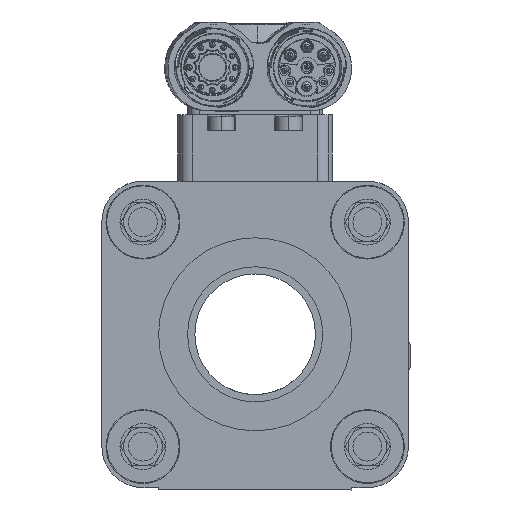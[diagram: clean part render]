
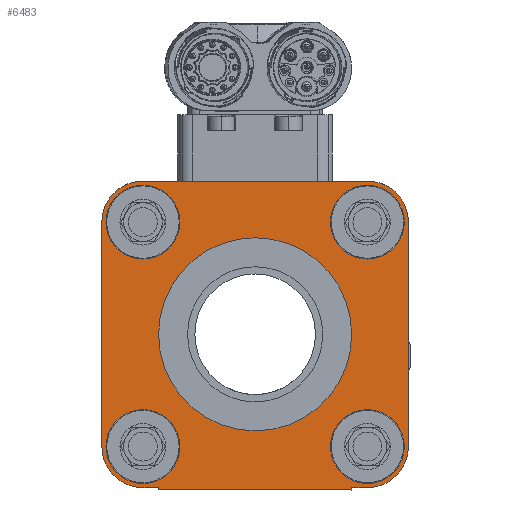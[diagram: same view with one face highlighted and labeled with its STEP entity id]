
A CAD part, left-side view. The second image highlights one B-rep face of the part: STEP entity #6483.
In plain terms, the highlighted planar face has unit normal (-1, 0, 0) as drawn and (0, 0, 1) by its records, which use the part's own axes.
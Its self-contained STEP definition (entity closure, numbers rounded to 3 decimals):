
#6483=ADVANCED_FACE('10:20',(#12906,#12907,#12908,#12909,#12910,#12911),#12912,.T.);
#12906=FACE_BOUND('',#40427,.T.);
#12907=FACE_BOUND('',#40428,.T.);
#12908=FACE_BOUND('',#40429,.T.);
#12909=FACE_BOUND('',#40430,.T.);
#12910=FACE_BOUND('',#40431,.T.);
#12911=FACE_OUTER_BOUND('',#40432,.T.);
#12912=PLANE('',#40433);
#40427=EDGE_LOOP('',(#59205,#59206));
#40428=EDGE_LOOP('',(#59207,#59208));
#40429=EDGE_LOOP('',(#59209,#59210));
#40430=EDGE_LOOP('',(#59211,#59212));
#40431=EDGE_LOOP('',(#59213,#59214));
#40432=EDGE_LOOP('',(#59215,#59216,#59217,#59218,#59219,#59220,#59221,#59222,#59223,#59224,#59225,#59226,#59227,#59228,#59229,#59230));
#40433=AXIS2_PLACEMENT_3D('',#59231,#59232,#59233);
#59205=ORIENTED_EDGE('',*,*,#71513,.F.);
#59206=ORIENTED_EDGE('',*,*,#65842,.F.);
#59207=ORIENTED_EDGE('',*,*,#69254,.F.);
#59208=ORIENTED_EDGE('',*,*,#62888,.F.);
#59209=ORIENTED_EDGE('',*,*,#71480,.F.);
#59210=ORIENTED_EDGE('',*,*,#70613,.F.);
#59211=ORIENTED_EDGE('',*,*,#64526,.F.);
#59212=ORIENTED_EDGE('',*,*,#64649,.F.);
#59213=ORIENTED_EDGE('',*,*,#69666,.F.);
#59214=ORIENTED_EDGE('',*,*,#65515,.F.);
#59215=ORIENTED_EDGE('',*,*,#64383,.F.);
#59216=ORIENTED_EDGE('',*,*,#69345,.F.);
#59217=ORIENTED_EDGE('',*,*,#68311,.F.);
#59218=ORIENTED_EDGE('',*,*,#70839,.F.);
#59219=ORIENTED_EDGE('',*,*,#65808,.F.);
#59220=ORIENTED_EDGE('',*,*,#66340,.F.);
#59221=ORIENTED_EDGE('',*,*,#67340,.F.);
#59222=ORIENTED_EDGE('',*,*,#63521,.F.);
#59223=ORIENTED_EDGE('',*,*,#63558,.F.);
#59224=ORIENTED_EDGE('',*,*,#67400,.F.);
#59225=ORIENTED_EDGE('',*,*,#62273,.F.);
#59226=ORIENTED_EDGE('',*,*,#67786,.F.);
#59227=ORIENTED_EDGE('',*,*,#71514,.F.);
#59228=ORIENTED_EDGE('',*,*,#66695,.F.);
#59229=ORIENTED_EDGE('',*,*,#62635,.F.);
#59230=ORIENTED_EDGE('',*,*,#69720,.F.);
#59231=CARTESIAN_POINT('',(0.,0.,34.0));
#59232=DIRECTION('',(0.0,0.0,1.0));
#59233=DIRECTION('',(1.0,0.0,0.0));
#62273=EDGE_CURVE('',#75538,#75540,#75541,.F.);
#62635=EDGE_CURVE('',#76199,#76194,#76201,.F.);
#62888=EDGE_CURVE('',#76659,#76661,#76662,.F.);
#63521=EDGE_CURVE('',#77816,#77819,#77820,.F.);
#63558=EDGE_CURVE('',#77883,#77816,#77885,.F.);
#64383=EDGE_CURVE('',#79361,#79357,#79363,.F.);
#64526=EDGE_CURVE('',#79621,#79617,#79623,.F.);
#64649=EDGE_CURVE('',#79617,#79621,#79840,.F.);
#65515=EDGE_CURVE('',#81417,#81419,#81420,.F.);
#65808=EDGE_CURVE('',#81948,#81944,#81950,.F.);
#65842=EDGE_CURVE('',#82010,#82012,#82013,.F.);
#66340=EDGE_CURVE('',#82892,#81948,#82894,.F.);
#66695=EDGE_CURVE('',#76194,#83526,#83527,.F.);
#67340=EDGE_CURVE('',#77819,#82892,#84666,.F.);
#67400=EDGE_CURVE('',#75540,#77883,#84772,.F.);
#67786=EDGE_CURVE('',#85446,#75538,#85448,.F.);
#68311=EDGE_CURVE('',#86383,#86385,#86386,.F.);
#69254=EDGE_CURVE('',#76661,#76659,#88118,.F.);
#69345=EDGE_CURVE('',#86385,#79361,#88277,.F.);
#69666=EDGE_CURVE('',#81419,#81417,#88862,.F.);
#69720=EDGE_CURVE('',#79357,#76199,#88953,.F.);
#70613=EDGE_CURVE('',#90552,#90554,#90555,.F.);
#70839=EDGE_CURVE('',#81944,#86383,#90955,.F.);
#71480=EDGE_CURVE('',#90554,#90552,#92089,.F.);
#71513=EDGE_CURVE('',#82012,#82010,#92147,.F.);
#71514=EDGE_CURVE('',#83526,#85446,#92148,.F.);
#75538=VERTEX_POINT('',#100270);
#75540=VERTEX_POINT('',#100273);
#75541=LINE('',#100274,#100275);
#76194=VERTEX_POINT('',#101505);
#76199=VERTEX_POINT('',#101512);
#76201=LINE('',#101515,#101516);
#76659=VERTEX_POINT('',#102366);
#76661=VERTEX_POINT('',#102369);
#76662=CIRCLE('',#102370,7.65);
#77816=VERTEX_POINT('',#104553);
#77819=VERTEX_POINT('',#104557);
#77820=LINE('',#104558,#104559);
#77883=VERTEX_POINT('',#104640);
#77885=CIRCLE('',#104643,8.5);
#79357=VERTEX_POINT('',#107894);
#79361=VERTEX_POINT('',#107899);
#79363=CIRCLE('',#107902,8.5);
#79617=VERTEX_POINT('',#108409);
#79621=VERTEX_POINT('',#108414);
#79623=CIRCLE('',#108417,7.65);
#79840=CIRCLE('',#108873,7.65);
#81417=VERTEX_POINT('',#111706);
#81419=VERTEX_POINT('',#111709);
#81420=CIRCLE('',#111710,7.65);
#81944=VERTEX_POINT('',#112613);
#81948=VERTEX_POINT('',#112619);
#81950=LINE('',#112622,#112623);
#82010=VERTEX_POINT('',#112689);
#82012=VERTEX_POINT('',#112692);
#82013=CIRCLE('',#112693,20.0);
#82892=VERTEX_POINT('',#114189);
#82894=CIRCLE('',#114192,8.5);
#83526=VERTEX_POINT('',#115390);
#83527=LINE('',#115391,#115392);
#84666=CIRCLE('',#117698,8.5);
#84772=CIRCLE('',#118157,8.5);
#85446=VERTEX_POINT('',#119453);
#85448=LINE('',#119456,#119457);
#86383=VERTEX_POINT('',#121533);
#86385=VERTEX_POINT('',#121536);
#86386=CIRCLE('',#121537,8.5);
#88118=CIRCLE('',#124791,7.65);
#88277=LINE('',#125100,#125101);
#88862=CIRCLE('',#126039,7.65);
#88953=CIRCLE('',#126242,8.5);
#90552=VERTEX_POINT('',#129861);
#90554=VERTEX_POINT('',#129864);
#90555=CIRCLE('',#129865,7.65);
#90955=CIRCLE('',#130533,8.5);
#92089=CIRCLE('',#132726,7.65);
#92147=CIRCLE('',#132818,20.0);
#92148=LINE('',#132819,#132820);
#100270=CARTESIAN_POINT('',(-4.191,-45.136,34.0));
#100273=CARTESIAN_POINT('',(-7.441,-45.136,34.0));
#100274=CARTESIAN_POINT('',(7.904,-45.136,34.0));
#100275=VECTOR('',#138043,1.0);
#101505=CARTESIAN_POINT('',(35.809,-45.136,34.0));
#101512=CARTESIAN_POINT('',(39.059,-45.136,34.0));
#101515=CARTESIAN_POINT('',(7.904,-45.136,34.0));
#101516=VECTOR('',#138538,1.0);
#102366=CARTESIAN_POINT('',(46.709,-36.636,34.0));
#102369=CARTESIAN_POINT('',(31.409,-36.636,34.0));
#102370=AXIS2_PLACEMENT_3D('',#138868,#138869,#138870);
#104553=CARTESIAN_POINT('',(-15.941,-36.636,34.0));
#104557=CARTESIAN_POINT('',(-15.941,9.864,34.0));
#104558=CARTESIAN_POINT('',(-15.941,-6.693,34.0));
#104559=VECTOR('',#139773,1.0);
#104640=CARTESIAN_POINT('',(-13.451,-42.647,34.0));
#104643=AXIS2_PLACEMENT_3D('',#139826,#139827,#139828);
#107894=CARTESIAN_POINT('',(45.069,-42.647,34.0));
#107899=CARTESIAN_POINT('',(47.559,-36.636,34.0));
#107902=AXIS2_PLACEMENT_3D('',#140879,#140880,#140881);
#108409=CARTESIAN_POINT('',(46.709,9.864,34.0));
#108414=CARTESIAN_POINT('',(31.409,9.864,34.0));
#108417=AXIS2_PLACEMENT_3D('',#141066,#141067,#141068);
#108873=AXIS2_PLACEMENT_3D('',#141206,#141207,#141208);
#111706=CARTESIAN_POINT('',(0.209,9.864,34.0));
#111709=CARTESIAN_POINT('',(-15.091,9.864,34.0));
#111710=AXIS2_PLACEMENT_3D('',#142471,#142472,#142473);
#112613=CARTESIAN_POINT('',(39.059,18.364,34.0));
#112619=CARTESIAN_POINT('',(-7.441,18.364,34.0));
#112622=CARTESIAN_POINT('',(7.904,18.364,34.0));
#112623=VECTOR('',#142881,1.0);
#112689=CARTESIAN_POINT('',(35.809,-13.386,34.0));
#112692=CARTESIAN_POINT('',(-4.191,-13.386,34.0));
#112693=AXIS2_PLACEMENT_3D('',#142949,#142950,#142951);
#114189=CARTESIAN_POINT('',(-13.451,15.874,34.0));
#114192=AXIS2_PLACEMENT_3D('',#143626,#143627,#143628);
#115390=CARTESIAN_POINT('',(35.809,-45.636,34.0));
#115391=CARTESIAN_POINT('',(35.809,-22.693,34.0));
#115392=VECTOR('',#144095,1.0);
#117698=AXIS2_PLACEMENT_3D('',#144867,#144868,#144869);
#118157=AXIS2_PLACEMENT_3D('',#144927,#144928,#144929);
#119453=CARTESIAN_POINT('',(-4.191,-45.636,34.0));
#119456=CARTESIAN_POINT('',(-4.191,-22.693,34.0));
#119457=VECTOR('',#145437,1.0);
#121533=CARTESIAN_POINT('',(45.069,15.874,34.0));
#121536=CARTESIAN_POINT('',(47.559,9.864,34.0));
#121537=AXIS2_PLACEMENT_3D('',#146037,#146038,#146039);
#124791=AXIS2_PLACEMENT_3D('',#147285,#147286,#147287);
#125100=CARTESIAN_POINT('',(47.559,-6.693,34.0));
#125101=VECTOR('',#147383,1.0);
#126039=AXIS2_PLACEMENT_3D('',#147909,#147910,#147911);
#126242=AXIS2_PLACEMENT_3D('',#147959,#147960,#147961);
#129861=CARTESIAN_POINT('',(0.209,-36.636,34.0));
#129864=CARTESIAN_POINT('',(-15.091,-36.636,34.0));
#129865=AXIS2_PLACEMENT_3D('',#148971,#148972,#148973);
#130533=AXIS2_PLACEMENT_3D('',#149301,#149302,#149303);
#132726=AXIS2_PLACEMENT_3D('',#150073,#150074,#150075);
#132818=AXIS2_PLACEMENT_3D('',#150116,#150117,#150118);
#132819=CARTESIAN_POINT('',(7.904,-45.636,34.0));
#132820=VECTOR('',#150119,1.0);
#138043=DIRECTION('',(1.0,0.0,-0.0));
#138538=DIRECTION('',(1.0,0.0,-0.0));
#138868=CARTESIAN_POINT('',(39.059,-36.636,34.0));
#138869=DIRECTION('',(0.0,0.0,-1.0));
#138870=DIRECTION('',(1.0,0.0,0.0));
#139773=DIRECTION('',(0.0,-1.0,0.0));
#139826=CARTESIAN_POINT('',(-7.441,-36.636,34.0));
#139827=DIRECTION('',(0.0,0.0,1.0));
#139828=DIRECTION('',(-0.707,-0.707,0.0));
#140879=CARTESIAN_POINT('',(39.059,-36.636,34.0));
#140880=DIRECTION('',(0.0,0.0,1.0));
#140881=DIRECTION('',(0.707,-0.707,0.0));
#141066=CARTESIAN_POINT('',(39.059,9.864,34.0));
#141067=DIRECTION('',(0.0,0.0,-1.0));
#141068=DIRECTION('',(1.0,0.0,0.0));
#141206=CARTESIAN_POINT('',(39.059,9.864,34.0));
#141207=DIRECTION('',(0.0,0.0,-1.0));
#141208=DIRECTION('',(1.0,0.0,0.0));
#142471=CARTESIAN_POINT('',(-7.441,9.864,34.0));
#142472=DIRECTION('',(0.0,0.0,-1.0));
#142473=DIRECTION('',(1.0,0.0,0.0));
#142881=DIRECTION('',(-1.0,0.0,0.0));
#142949=CARTESIAN_POINT('',(15.809,-13.386,34.0));
#142950=DIRECTION('',(0.0,0.0,-1.0));
#142951=DIRECTION('',(1.0,0.0,0.0));
#143626=CARTESIAN_POINT('',(-7.441,9.864,34.0));
#143627=DIRECTION('',(0.0,0.0,1.0));
#143628=DIRECTION('',(-0.707,0.707,0.0));
#144095=DIRECTION('',(-0.0,1.0,0.0));
#144867=CARTESIAN_POINT('',(-7.441,9.864,34.0));
#144868=DIRECTION('',(0.0,0.0,1.0));
#144869=DIRECTION('',(-0.707,0.707,0.0));
#144927=CARTESIAN_POINT('',(-7.441,-36.636,34.0));
#144928=DIRECTION('',(0.0,0.0,1.0));
#144929=DIRECTION('',(-0.707,-0.707,0.0));
#145437=DIRECTION('',(0.0,-1.0,0.0));
#146037=CARTESIAN_POINT('',(39.059,9.864,34.0));
#146038=DIRECTION('',(0.0,-0.0,1.0));
#146039=DIRECTION('',(0.707,0.707,0.0));
#147285=CARTESIAN_POINT('',(39.059,-36.636,34.0));
#147286=DIRECTION('',(0.0,0.0,-1.0));
#147287=DIRECTION('',(1.0,0.0,0.0));
#147383=DIRECTION('',(-0.0,1.0,0.0));
#147909=CARTESIAN_POINT('',(-7.441,9.864,34.0));
#147910=DIRECTION('',(0.0,0.0,-1.0));
#147911=DIRECTION('',(1.0,0.0,0.0));
#147959=CARTESIAN_POINT('',(39.059,-36.636,34.0));
#147960=DIRECTION('',(0.0,0.0,1.0));
#147961=DIRECTION('',(0.707,-0.707,0.0));
#148971=CARTESIAN_POINT('',(-7.441,-36.636,34.0));
#148972=DIRECTION('',(0.0,0.0,-1.0));
#148973=DIRECTION('',(1.0,0.0,0.0));
#149301=CARTESIAN_POINT('',(39.059,9.864,34.0));
#149302=DIRECTION('',(0.0,-0.0,1.0));
#149303=DIRECTION('',(0.707,0.707,0.0));
#150073=CARTESIAN_POINT('',(-7.441,-36.636,34.0));
#150074=DIRECTION('',(0.0,0.0,-1.0));
#150075=DIRECTION('',(1.0,0.0,0.0));
#150116=CARTESIAN_POINT('',(15.809,-13.386,34.0));
#150117=DIRECTION('',(0.0,0.0,-1.0));
#150118=DIRECTION('',(1.0,0.0,0.0));
#150119=DIRECTION('',(1.0,0.0,-0.0));
